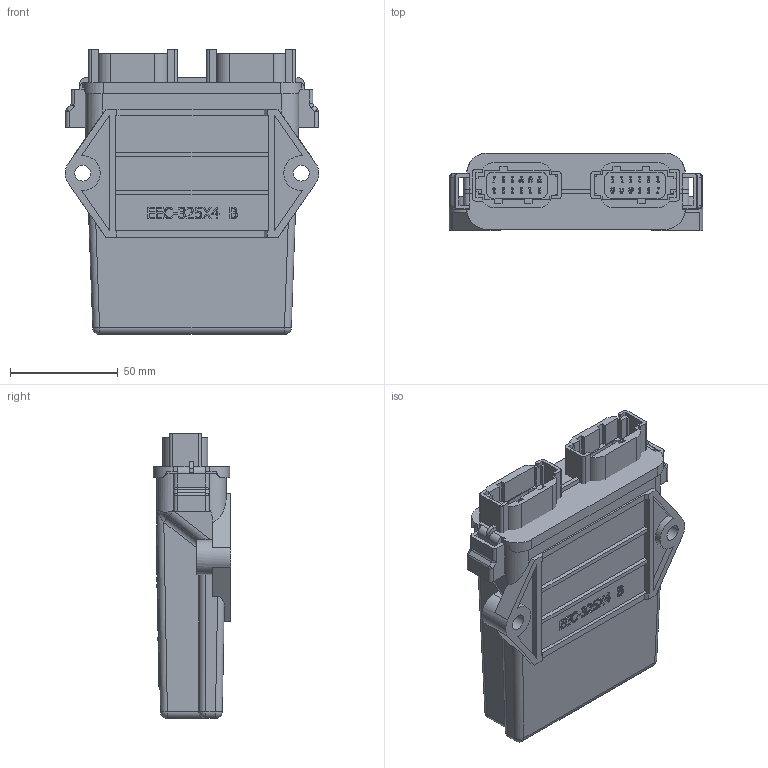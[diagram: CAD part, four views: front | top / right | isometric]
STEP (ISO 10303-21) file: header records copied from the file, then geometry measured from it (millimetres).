
FILE_DESCRIPTION((''),'2;1');
FILE_NAME('S:\Projects\ATC-8IN-5OUT (AX021900)\MECHANICAL\rev A\FG-AX021900-A.stp','2013-04-10T13:06:02',('tfisher'),(''),'Autodesk Inventor 2012','Autodesk Inventor 2012','');
FILE_SCHEMA(('AUTOMOTIVE_DESIGN { 1 0 10303 214 1 1 1 1 }'));
Length unit declared in the file: inch
Products named in the file (9): FG-AX021900-A for STEP; DEUT DTM13-12A-12PB; deutsch box faceplate; 12PB; 12PA; DTM1312PAPB pin guide; DTM1312PA12PB gasket; DEUT EEC-325X4B for STEP; LBM-AX0219001R01 for STEP
Assembly tree (8 placements, depth 3):
  FG-AX021900-A for STEP
    DEUT DTM13-12A-12PB
      deutsch box faceplate
      12PB
      12PA
      DTM1312PAPB pin guide
      DTM1312PA12PB gasket
    DEUT EEC-325X4B for STEP
    LBM-AX0219001R01 for STEP
Bounding box: 117.86 x 36.09 x 132.51 mm (x, y, z)
Volume: 350322.5 mm3; surface area: 86394.2 mm2
Topology: 8 solids, 8 shells, 7175 faces, 19173 edges, 12733 vertices
Faces by surface type: plane 4276, bspline 2577, cylinder 279, torus 25, sphere 10, cone 8
Full cylindrical faces by diameter (mm): 0.762 x96, 7.366 x2
Entity records: 240318 total; most frequent: CARTESIAN_POINT 71771, ORIENTED_EDGE 38096, DIRECTION 23729, EDGE_CURVE 19048, VECTOR 13281, LINE 13281, VERTEX_POINT 12733, EDGE_LOOP 8089
